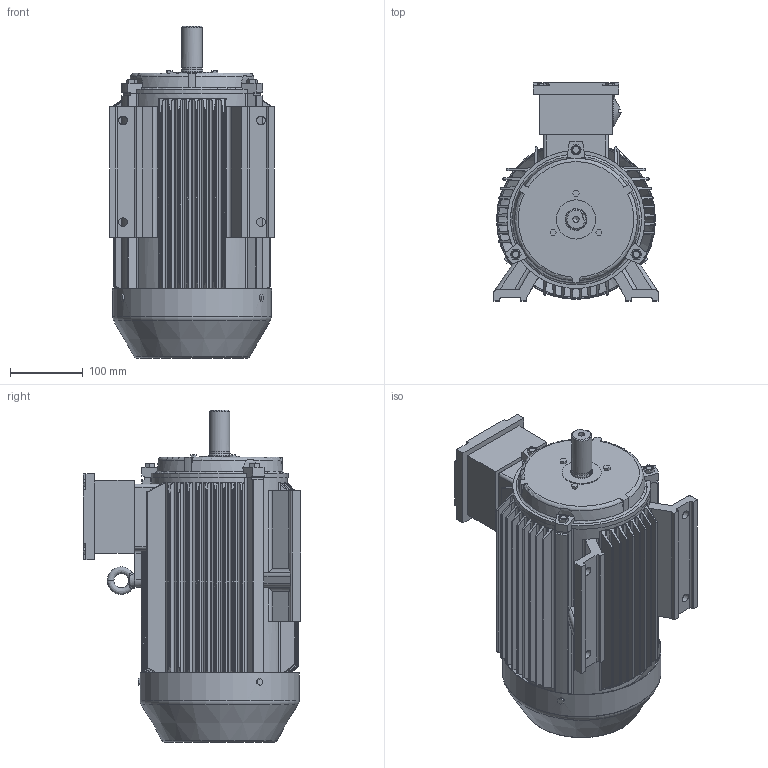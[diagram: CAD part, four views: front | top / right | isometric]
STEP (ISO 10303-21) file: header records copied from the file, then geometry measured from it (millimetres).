
FILE_DESCRIPTION(/* description */ (''),/* implementation_level */ '2;1');
FILE_NAME(/* name */ 'C:/Users/luigi_zhang/Desktop/temp/TE3-112M B3╔╧.step',/* time_stamp */ '2020-07-01T16:04:41+10:00',/* author */ (''),/* organization */ (''),/* preprocessor_version */ 'ST-DEVELOPER v18.1',/* originating_system */ 'Autodesk Translation Framework v9.3.0.1241',/* authorisation */ '');
FILE_SCHEMA (('AUTOMOTIVE_DESIGN { 1 0 10303 214 3 1 1 }'));
Length unit declared in the file: millimetre
Products named in the file (7): (Unsaved); TE3-112M»ú×ù B3ÉÏ; YX3-112 ·çÕÖ; GX112 P24 ¶Ë¸Ç£¨ÖáÉ
ì£©; hex head bolts-reduced shank grade b gb_GB_FASTENER_BOLT_HHBB M8X50-N; YE3-112MÖá£¨ÖáÉì£©; eyebolts gb_GB_FASTENER_SCREWS_FRS M8-N
Assembly tree (8 placements, depth 2):
  (Unsaved)
    TE3-112M»ú×ù B3ÉÏ
    YX3-112 ·çÕÖ
    GX112 P24 ¶Ë¸Ç£¨ÖáÉ
ì£©
    hex head bolts-reduced shank grade b gb_GB_FASTENER_BOLT_HHBB M8X50-N  x3
    YE3-112MÖá£¨ÖáÉì£©
    eyebolts gb_GB_FASTENER_SCREWS_FRS M8-N
Bounding box: 226 x 300 x 457 mm (x, y, z)
Volume: 3571843.4 mm3; surface area: 1048244.9 mm2
Topology: 8 solids, 8 shells, 1447 faces, 3843 edges, 2541 vertices
Faces by surface type: plane 750, cylinder 585, cone 70, torus 23, bspline 19
Full cylindrical faces by diameter (mm): 6 x1, 7.188 x3, 8 x8, 8.5 x1, 9.2 x3, 10 x3, 12 x4, 27.5 x1, 28 x1, 29.5 x1, 30 x2, 38 x1, 54 x2, 175 x1, 178 x1, 217 x1, 219 x1
Entity records: 50230 total; most frequent: CARTESIAN_POINT 14766, ORIENTED_EDGE 7556, DIRECTION 7136, EDGE_CURVE 3778, VERTEX_POINT 2499, AXIS2_PLACEMENT_3D 2464, LINE 2208, VECTOR 2208
